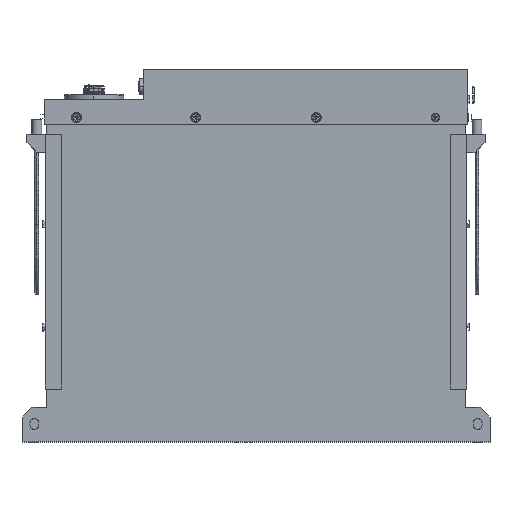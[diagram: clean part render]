
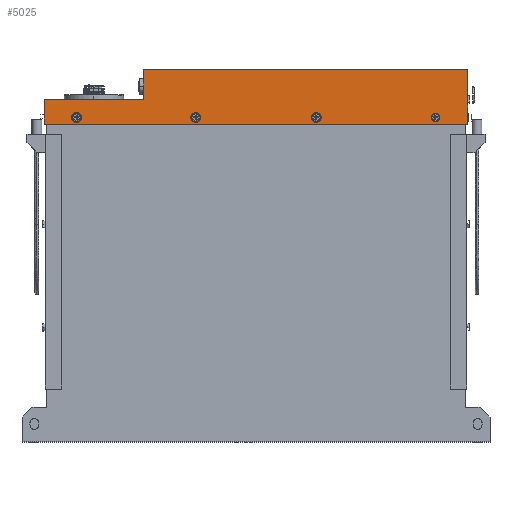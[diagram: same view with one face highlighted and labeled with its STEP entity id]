
A CAD part, top view. The second image highlights one B-rep face of the part: STEP entity #5025.
In plain terms, the highlighted planar face has unit normal (0, 0, 1).
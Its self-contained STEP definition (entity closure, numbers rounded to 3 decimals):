
#36 = CARTESIAN_POINT ( 'NONE',  ( 213.25, 320., 169.25 ) ) ;
#142 = CIRCLE ( 'NONE', #31790, 2. ) ;
#249 = CARTESIAN_POINT ( 'NONE',  ( 178.75, 326., 169.25 ) ) ;
#491 = ORIENTED_EDGE ( 'NONE', *, *, #31391, .T. ) ;
#500 = PLANE ( 'NONE',  #19142 ) ;
#636 = AXIS2_PLACEMENT_3D ( 'NONE', #28258, #28373, #23197 ) ;
#693 = ORIENTED_EDGE ( 'NONE', *, *, #33890, .T. ) ;
#1467 = CIRCLE ( 'NONE', #636, 2. ) ;
#1532 = DIRECTION ( 'NONE',  ( 0., 0., -1. ) ) ;
#1732 = FACE_BOUND ( 'NONE', #5906, .T. ) ;
#1790 = ORIENTED_EDGE ( 'NONE', *, *, #3976, .T. ) ;
#2013 = CARTESIAN_POINT ( 'NONE',  ( -178.75, 326., 169.25 ) ) ;
#2216 = DIRECTION ( 'NONE',  ( 0., 0., -1. ) ) ;
#2333 = ORIENTED_EDGE ( 'NONE', *, *, #26505, .T. ) ;
#2652 = VECTOR ( 'NONE', #14158, 1000. ) ;
#2758 = EDGE_CURVE ( 'NONE', #9827, #7128, #4700, .T. ) ;
#2838 = ORIENTED_EDGE ( 'NONE', *, *, #14153, .T. ) ;
#3081 = AXIS2_PLACEMENT_3D ( 'NONE', #33034, #33273, #3964 ) ;
#3473 = VERTEX_POINT ( 'NONE', #5817 ) ;
#3964 = DIRECTION ( 'NONE',  ( 1., 0., 0. ) ) ;
#3976 = EDGE_CURVE ( 'NONE', #7128, #9827, #142, .T. ) ;
#4166 = VERTEX_POINT ( 'NONE', #9676 ) ;
#4525 = ORIENTED_EDGE ( 'NONE', *, *, #12540, .T. ) ;
#4547 = EDGE_LOOP ( 'NONE', ( #2838, #32738, #2333, #4525, #22945, #17049 ) ) ;
#4700 = CIRCLE ( 'NONE', #10026, 2. ) ;
#4735 = LINE ( 'NONE', #12825, #33762 ) ;
#4822 = DIRECTION ( 'NONE',  ( 0., 0., -1. ) ) ;
#4952 = VERTEX_POINT ( 'NONE', #32131 ) ;
#5025 = ADVANCED_FACE ( 'NONE', ( #29907, #22899, #1732, #15834, #33660 ), #500, .T. ) ;
#5593 = CARTESIAN_POINT ( 'NONE',  ( -58.75, 326., 169.25 ) ) ;
#5642 = DIRECTION ( 'NONE',  ( -1., 0., 0. ) ) ;
#5817 = CARTESIAN_POINT ( 'NONE',  ( 182.75, 326., 169.25 ) ) ;
#5906 = EDGE_LOOP ( 'NONE', ( #1790, #17158 ) ) ;
#7128 = VERTEX_POINT ( 'NONE', #34324 ) ;
#7277 = VERTEX_POINT ( 'NONE', #249 ) ;
#7950 = CARTESIAN_POINT ( 'NONE',  ( -180.75, 326., 169.25 ) ) ;
#8113 = LINE ( 'NONE', #25194, #12253 ) ;
#8249 = CARTESIAN_POINT ( 'NONE',  ( -113.25, 375., 169.25 ) ) ;
#9329 = CARTESIAN_POINT ( 'NONE',  ( -113.25, 345., 169.25 ) ) ;
#9379 = CIRCLE ( 'NONE', #28717, 2. ) ;
#9474 = LINE ( 'NONE', #20399, #23142 ) ;
#9676 = CARTESIAN_POINT ( 'NONE',  ( -62.75, 326., 169.25 ) ) ;
#9827 = VERTEX_POINT ( 'NONE', #16840 ) ;
#9872 = EDGE_CURVE ( 'NONE', #3473, #7277, #21517, .T. ) ;
#10026 = AXIS2_PLACEMENT_3D ( 'NONE', #34300, #29164, #13190 ) ;
#10312 = VERTEX_POINT ( 'NONE', #20165 ) ;
#10433 = EDGE_CURVE ( 'NONE', #18173, #31521, #9474, .T. ) ;
#11015 = EDGE_LOOP ( 'NONE', ( #27226, #24239 ) ) ;
#11465 = EDGE_LOOP ( 'NONE', ( #491, #19697 ) ) ;
#11847 = EDGE_CURVE ( 'NONE', #10312, #17646, #9379, .T. ) ;
#11966 = CARTESIAN_POINT ( 'NONE',  ( -180.75, 326., 169.25 ) ) ;
#12253 = VECTOR ( 'NONE', #30727, 1000. ) ;
#12436 = VECTOR ( 'NONE', #26131, 1000. ) ;
#12540 = EDGE_CURVE ( 'NONE', #4952, #15168, #8113, .T. ) ;
#12584 = EDGE_CURVE ( 'NONE', #17646, #10312, #20977, .T. ) ;
#12825 = CARTESIAN_POINT ( 'NONE',  ( -213.25, 375., 169.25 ) ) ;
#13190 = DIRECTION ( 'NONE',  ( 1., 0., 0. ) ) ;
#13567 = DIRECTION ( 'NONE',  ( -1., 0., 0. ) ) ;
#14153 = EDGE_CURVE ( 'NONE', #31521, #33216, #22979, .T. ) ;
#14158 = DIRECTION ( 'NONE',  ( 0., -1., 0. ) ) ;
#14388 = AXIS2_PLACEMENT_3D ( 'NONE', #15654, #2216, #31769 ) ;
#14863 = DIRECTION ( 'NONE',  ( 1., 0., 0. ) ) ;
#15168 = VERTEX_POINT ( 'NONE', #36 ) ;
#15619 = DIRECTION ( 'NONE',  ( 1., 0., 0. ) ) ;
#15654 = CARTESIAN_POINT ( 'NONE',  ( -60.75, 326., 169.25 ) ) ;
#15834 = FACE_BOUND ( 'NONE', #24332, .T. ) ;
#15975 = DIRECTION ( 'NONE',  ( 0., 0., -1. ) ) ;
#16471 = CARTESIAN_POINT ( 'NONE',  ( 213.25, 375., 169.25 ) ) ;
#16840 = CARTESIAN_POINT ( 'NONE',  ( 58.75, 326., 169.25 ) ) ;
#17049 = ORIENTED_EDGE ( 'NONE', *, *, #10433, .T. ) ;
#17158 = ORIENTED_EDGE ( 'NONE', *, *, #2758, .T. ) ;
#17196 = EDGE_CURVE ( 'NONE', #33216, #28957, #22520, .T. ) ;
#17646 = VERTEX_POINT ( 'NONE', #2013 ) ;
#17943 = VECTOR ( 'NONE', #5642, 1000. ) ;
#18173 = VERTEX_POINT ( 'NONE', #28915 ) ;
#18882 = CIRCLE ( 'NONE', #3081, 2. ) ;
#18910 = DIRECTION ( 'NONE',  ( 0., 0., 1. ) ) ;
#19142 = AXIS2_PLACEMENT_3D ( 'NONE', #16471, #18910, #13567 ) ;
#19697 = ORIENTED_EDGE ( 'NONE', *, *, #33732, .T. ) ;
#20136 = AXIS2_PLACEMENT_3D ( 'NONE', #11966, #1532, #14863 ) ;
#20165 = CARTESIAN_POINT ( 'NONE',  ( -182.75, 326., 169.25 ) ) ;
#20399 = CARTESIAN_POINT ( 'NONE',  ( 0., 375., 169.25 ) ) ;
#20583 = VERTEX_POINT ( 'NONE', #5593 ) ;
#20977 = CIRCLE ( 'NONE', #20136, 2. ) ;
#21517 = CIRCLE ( 'NONE', #27821, 2. ) ;
#22520 = LINE ( 'NONE', #32398, #17943 ) ;
#22899 = FACE_BOUND ( 'NONE', #11465, .T. ) ;
#22945 = ORIENTED_EDGE ( 'NONE', *, *, #29598, .T. ) ;
#22979 = LINE ( 'NONE', #23265, #2652 ) ;
#23142 = VECTOR ( 'NONE', #31147, 1000. ) ;
#23197 = DIRECTION ( 'NONE',  ( 1., 0., 0. ) ) ;
#23265 = CARTESIAN_POINT ( 'NONE',  ( -113.25, 345., 169.25 ) ) ;
#23577 = ORIENTED_EDGE ( 'NONE', *, *, #9872, .T. ) ;
#23754 = DIRECTION ( 'NONE',  ( 0., -1., 0. ) ) ;
#24239 = ORIENTED_EDGE ( 'NONE', *, *, #11847, .T. ) ;
#24332 = EDGE_LOOP ( 'NONE', ( #23577, #693 ) ) ;
#25194 = CARTESIAN_POINT ( 'NONE',  ( 213.25, 320., 169.25 ) ) ;
#26131 = DIRECTION ( 'NONE',  ( 0., 1., 0. ) ) ;
#26505 = EDGE_CURVE ( 'NONE', #28957, #4952, #4735, .T. ) ;
#27226 = ORIENTED_EDGE ( 'NONE', *, *, #12584, .T. ) ;
#27821 = AXIS2_PLACEMENT_3D ( 'NONE', #30483, #32934, #30130 ) ;
#28258 = CARTESIAN_POINT ( 'NONE',  ( 180.75, 326., 169.25 ) ) ;
#28373 = DIRECTION ( 'NONE',  ( 0., 0., -1. ) ) ;
#28466 = CARTESIAN_POINT ( 'NONE',  ( -213.25, 345., 169.25 ) ) ;
#28717 = AXIS2_PLACEMENT_3D ( 'NONE', #7950, #4822, #28889 ) ;
#28889 = DIRECTION ( 'NONE',  ( 1., 0., 0. ) ) ;
#28915 = CARTESIAN_POINT ( 'NONE',  ( 213.25, 375., 169.25 ) ) ;
#28957 = VERTEX_POINT ( 'NONE', #28466 ) ;
#29164 = DIRECTION ( 'NONE',  ( 0., 0., -1. ) ) ;
#29598 = EDGE_CURVE ( 'NONE', #15168, #18173, #31530, .T. ) ;
#29907 = FACE_BOUND ( 'NONE', #11015, .T. ) ;
#30130 = DIRECTION ( 'NONE',  ( 1., 0., 0. ) ) ;
#30483 = CARTESIAN_POINT ( 'NONE',  ( 180.75, 326., 169.25 ) ) ;
#30727 = DIRECTION ( 'NONE',  ( 1., 0., 0. ) ) ;
#31147 = DIRECTION ( 'NONE',  ( -1., 0., 0. ) ) ;
#31391 = EDGE_CURVE ( 'NONE', #20583, #4166, #33531, .T. ) ;
#31521 = VERTEX_POINT ( 'NONE', #8249 ) ;
#31530 = LINE ( 'NONE', #31681, #12436 ) ;
#31681 = CARTESIAN_POINT ( 'NONE',  ( 213.25, 375., 169.25 ) ) ;
#31769 = DIRECTION ( 'NONE',  ( 1., 0., 0. ) ) ;
#31790 = AXIS2_PLACEMENT_3D ( 'NONE', #31852, #15975, #15619 ) ;
#31852 = CARTESIAN_POINT ( 'NONE',  ( 60.75, 326., 169.25 ) ) ;
#32131 = CARTESIAN_POINT ( 'NONE',  ( -213.25, 320., 169.25 ) ) ;
#32398 = CARTESIAN_POINT ( 'NONE',  ( 213.25, 345., 169.25 ) ) ;
#32738 = ORIENTED_EDGE ( 'NONE', *, *, #17196, .T. ) ;
#32934 = DIRECTION ( 'NONE',  ( 0., 0., -1. ) ) ;
#33034 = CARTESIAN_POINT ( 'NONE',  ( -60.75, 326., 169.25 ) ) ;
#33216 = VERTEX_POINT ( 'NONE', #9329 ) ;
#33273 = DIRECTION ( 'NONE',  ( 0., 0., -1. ) ) ;
#33531 = CIRCLE ( 'NONE', #14388, 2. ) ;
#33660 = FACE_OUTER_BOUND ( 'NONE', #4547, .T. ) ;
#33732 = EDGE_CURVE ( 'NONE', #4166, #20583, #18882, .T. ) ;
#33762 = VECTOR ( 'NONE', #23754, 1000. ) ;
#33890 = EDGE_CURVE ( 'NONE', #7277, #3473, #1467, .T. ) ;
#34300 = CARTESIAN_POINT ( 'NONE',  ( 60.75, 326., 169.25 ) ) ;
#34324 = CARTESIAN_POINT ( 'NONE',  ( 62.75, 326., 169.25 ) ) ;
